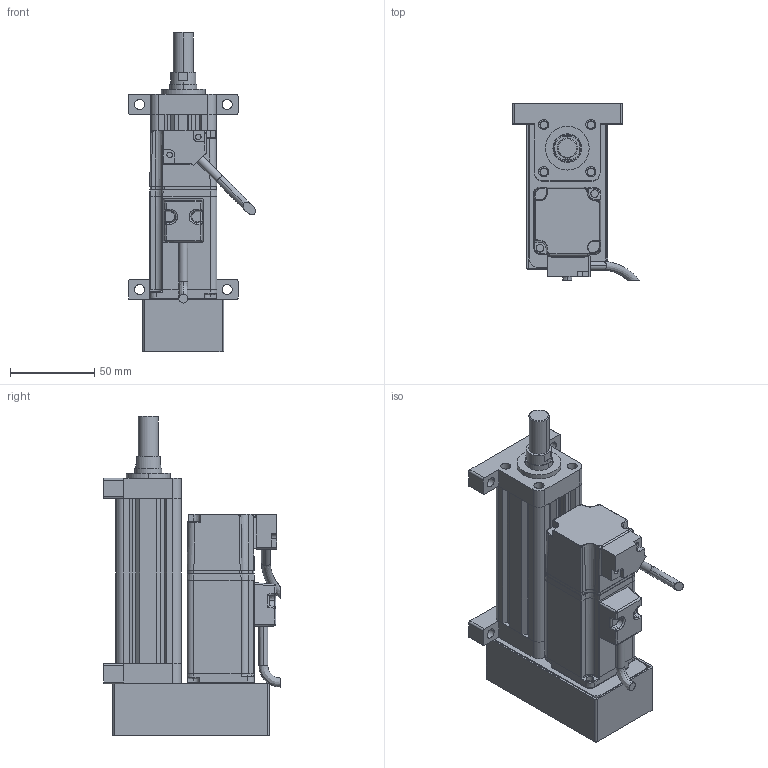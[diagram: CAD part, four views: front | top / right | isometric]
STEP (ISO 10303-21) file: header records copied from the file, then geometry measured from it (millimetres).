
FILE_DESCRIPTION (( 'STEP AP214' ), '1' );
FILE_NAME ('039-S50-D02-B-M2-C1-2.STEP', '2021-02-25T08:46:17', ( '' ), ( '' ), 'SwSTEP 2.0', 'SolidWorks 2018', '' );
FILE_SCHEMA (( 'AUTOMOTIVE_DESIGN' ));
Length unit declared in the file: millimetre
Products named in the file (8): CMC039-LJB; 039-S50-D02-B-M2-C1-2; CMC039-HDB; CMC039-GT; ECMA-CX0401ES-40框號系列機種-100W低慣量系列; CMC039-XT; CMC039-DT; CMC039-QDB
Assembly tree (7 placements, depth 2):
  039-S50-D02-B-M2-C1-2
    CMC039-GT
    CMC039-LJB
    CMC039-XT
    CMC039-DT
    ECMA-CX0401ES-40框號系列機種-100W低慣量系列
    CMC039-QDB
    CMC039-HDB
Bounding box: 75.33 x 104.89 x 190 mm (x, y, z)
Volume: 358643.1 mm3; surface area: 117096.1 mm2
Topology: 7 solids, 15 shells, 637 faces, 1658 edges, 1033 vertices
Faces by surface type: cylinder 260, plane 254, bspline 84, cone 39
Entity records: 25542 total; most frequent: CARTESIAN_POINT 10820, ORIENTED_EDGE 3250, DIRECTION 2583, EDGE_CURVE 1625, VERTEX_POINT 1033, AXIS2_PLACEMENT_3D 883, LINE 817, VECTOR 817
